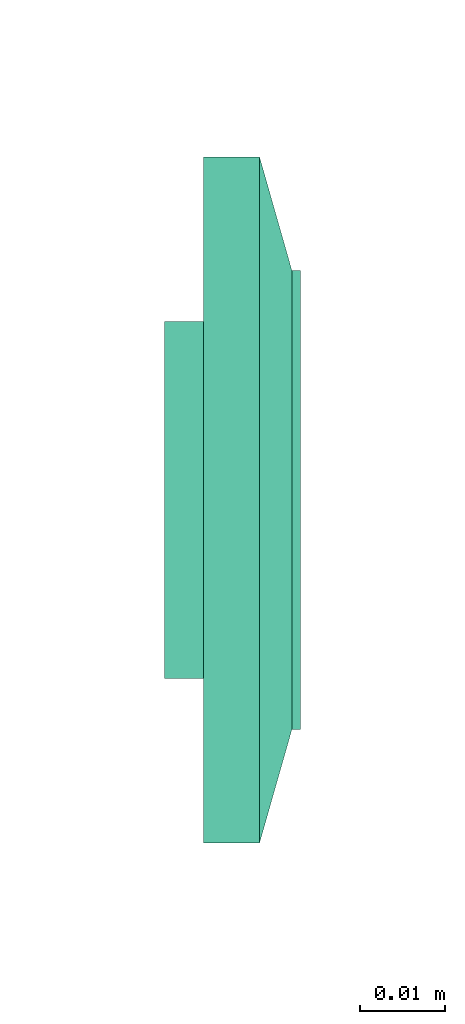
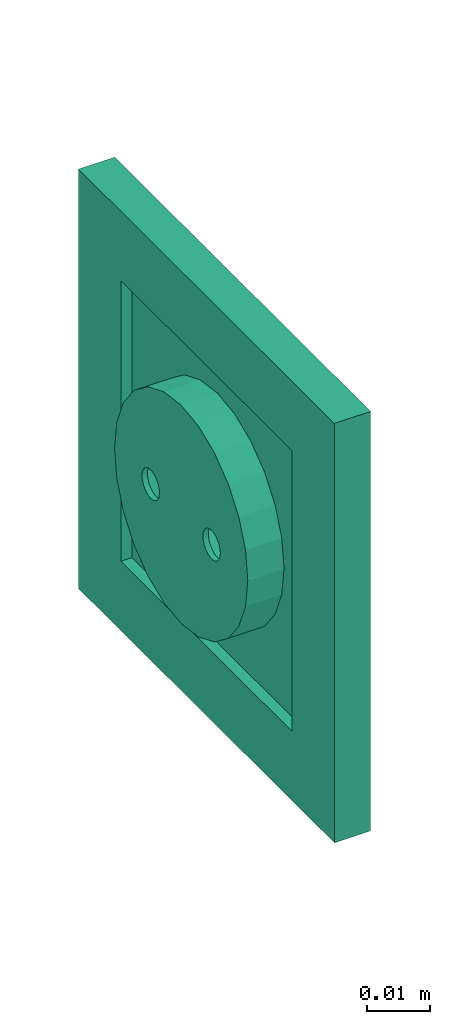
# One storey, part 130 of 153: 1 flow terminal.
"""IFC2X3 building model written with IfcOpenShell, lengths in metres."""

import ifcopenshell
import ifcopenshell.guid

model = None  # the IFC model being written
_history = None  # IfcOwnerHistory: only IFC2X3 demands one
_inside = {}  # id of a spatial element -> (the spatial element, [elements in it])
_under = {}  # id of a project, library or spatial element -> (it, [spatial elements below it])
_declared = {}  # id of a project -> (the project, [libraries it declares])
_typed = {}  # id of a type object -> (the type object, [elements of that type])
_made_of = {}  # id of a material, layer set ... -> (it, [elements and type objects made of it])


def new_model(schema):
    """Start an empty IFC model of exactly this schema.

    Asked for "IFC4X3", IfcOpenShell would pick the latest addendum, in which some entities
    have other attributes; the version numbers below select the first issue.
    IFC2X3 requires an IfcOwnerHistory on every rooted entity: one is made here for all.
    """
    global model, _history
    if schema == "IFC4X3":
        model = ifcopenshell.file(schema_version=(4, 3, 0, 0))
    else:
        model = ifcopenshell.file(schema=schema)
    _inside.clear()
    _under.clear()
    _declared.clear()
    _typed.clear()
    _made_of.clear()
    _history = None
    if model.schema == "IFC2X3":
        org = make("IfcOrganization", Name="unknown")
        user = make(
            "IfcPersonAndOrganization",
            ThePerson=make("IfcPerson", FamilyName="unknown"),
            TheOrganization=org,
        )
        app = make(
            "IfcApplication",
            ApplicationDeveloper=org,
            Version="unknown",
            ApplicationFullName="unknown",
            ApplicationIdentifier="unknown",
        )
        _history = make(
            "IfcOwnerHistory",
            OwningUser=user,
            OwningApplication=app,
            ChangeAction="ADDED",
            CreationDate=0,
        )
    return model


def make(cls, **values):
    """One entity of the class cls with the attributes given. An attribute that is None is left unset."""
    return model.create_entity(
        cls, **{name: value for name, value in values.items() if value is not None}
    )


def entity(cls, *values):
    """Any entity or typed value of the class cls, its attributes in the order of the schema. None: left unset."""
    e = model.create_entity(cls)
    for i, value in enumerate(values):
        if value is not None:
            e[i] = value
    return e


def rooted(cls, **values):
    """An entity with a GlobalId (a new one), such as an element, a storey or a relation."""
    return make(cls, GlobalId=ifcopenshell.guid.new(), OwnerHistory=_history, **values)


def si_unit(unit_type, name, prefix=None):
    """IfcSIUnit, for example si_unit("LENGTHUNIT", "METRE", prefix="MILLI")."""
    return make("IfcSIUnit", UnitType=unit_type, Prefix=prefix, Name=name)


def converted_unit(unit_type, name, factor, base, dimensions=None, offset=None):
    """IfcConversionBasedUnit, such as the inch: factor (a typed value) times the base unit."""
    return make(
        "IfcConversionBasedUnit"
        if offset is None
        else "IfcConversionBasedUnitWithOffset",
        ConversionOffset=offset,
        Dimensions=None
        if dimensions is None
        else entity("IfcDimensionalExponents", *dimensions),
        UnitType=unit_type,
        Name=name,
        ConversionFactor=make(
            "IfcMeasureWithUnit", ValueComponent=factor, UnitComponent=base
        ),
    )


def derived_unit(unit_type, elements):
    """IfcDerivedUnit: a product of units, each with its exponent."""
    return make(
        "IfcDerivedUnit",
        Elements=[
            make("IfcDerivedUnitElement", Unit=unit, Exponent=power)
            for unit, power in elements
        ],
        UnitType=unit_type,
    )


def assignment(units):
    """IfcUnitAssignment: the units of a project."""
    return None if units is None else make("IfcUnitAssignment", Units=units)


def point(xyz):
    """IfcCartesianPoint."""
    return None if xyz is None else make("IfcCartesianPoint", Coordinates=xyz)


def direction(xyz):
    """IfcDirection."""
    return None if xyz is None else make("IfcDirection", DirectionRatios=xyz)


def frame(location, z_axis=None, x_axis=None):
    """IfcAxis2Placement3D, a coordinate frame: its origin and axes. An axis left out is left unset."""
    return make(
        "IfcAxis2Placement3D",
        Location=point(location),
        Axis=direction(z_axis),
        RefDirection=direction(x_axis),
    )


def origin():
    """The frame at (0, 0, 0) with its axes left unset."""
    return frame((0.0, 0.0, 0.0))


def place(relative_to, where):
    """IfcLocalPlacement: puts the frame where relative to a parent placement (None: the world)."""
    return make(
        "IfcLocalPlacement", PlacementRelTo=relative_to, RelativePlacement=where
    )


def context(
    kind, dimensions, precision=None, world=None, true_north=None, identifier=None
):
    """IfcGeometricRepresentationContext, for example the 3D "Model" context."""
    return make(
        "IfcGeometricRepresentationContext",
        ContextIdentifier=identifier,
        ContextType=kind,
        CoordinateSpaceDimension=dimensions,
        Precision=precision,
        WorldCoordinateSystem=world,
        TrueNorth=true_north,
    )


def subcontext(parent, identifier, kind, view, scale=None):
    """IfcGeometricRepresentationSubContext, for example "Body" below "Model"."""
    return make(
        "IfcGeometricRepresentationSubContext",
        ContextIdentifier=identifier,
        ContextType=kind,
        ParentContext=parent,
        TargetScale=scale,
        TargetView=view,
    )


def project(units=None, contexts=None):
    """IfcProject with its units and contexts."""
    return rooted(
        "IfcProject",
        Name="project",
        RepresentationContexts=contexts,
        UnitsInContext=assignment(units),
    )


def spatial(cls, under=None, at=None, **own):
    """A site, building, storey or space (cls), placed at a placement, below another one or the project."""
    s = rooted(cls, ObjectPlacement=at, **own)
    if under is not None:
        _under.setdefault(under.id(), (under, []))[1].append(s)
    return s


def faces_of(points, faces, orient=None, outer=None):
    """IfcFace entities. A face is a list of loops; a loop is a list of indices into points, from 0.

    orient and outer hold one flag for each loop. By default every Orientation is true, the
    first loop of a face is its IfcFaceOuterBound and the others are IfcFaceBound.
    """
    made = []
    for i, loops in enumerate(faces):
        bounds = []
        for j, loop in enumerate(loops):
            is_outer = j == 0 if outer is None else outer[i][j]
            bounds.append(
                make(
                    "IfcFaceOuterBound" if is_outer else "IfcFaceBound",
                    Bound=make("IfcPolyLoop", Polygon=[points[k] for k in loop]),
                    Orientation=True if orient is None else orient[i][j],
                )
            )
        made.append(make("IfcFace", Bounds=bounds))
    return made


def face_set(faces, orient=None, outer=None):
    """The faces of one IfcConnectedFaceSet. surface_model builds it on its shared points."""
    return ("IfcConnectedFaceSet", faces, orient, outer)


def surface_model(cls, points, shells):
    """IfcFaceBasedSurfaceModel or IfcShellBasedSurfaceModel (cls): surfaces that need not close."""
    shared = [point(p) for p in points]
    made = [make(c, CfsFaces=faces_of(shared, fs, o, b)) for c, fs, o, b in shells]
    if cls == "IfcFaceBasedSurfaceModel":
        return make(cls, FbsmFaces=made)
    return make(cls, SbsmBoundary=made)


def shape(context_of_items, identifier, shape_type, items):
    """IfcShapeRepresentation: the items that make up one representation, for example the "Body"."""
    return make(
        "IfcShapeRepresentation",
        ContextOfItems=context_of_items,
        RepresentationIdentifier=identifier,
        RepresentationType=shape_type,
        Items=items,
    )


def source(mapping_origin, context_of_items, identifier, shape_type, items):
    """IfcRepresentationMap: a shape defined once, which mapped items show again and again."""
    return make(
        "IfcRepresentationMap",
        MappingOrigin=mapping_origin,
        MappedRepresentation=shape(context_of_items, identifier, shape_type, items),
    )


def transform(
    local_origin,
    x_axis=None,
    y_axis=None,
    z_axis=None,
    scale=None,
    scale2=None,
    scale3=None,
    uniform=True,
):
    """IfcCartesianTransformationOperator3D, or its non-uniform kind. x_axis, y_axis, z_axis: its Axis1, 2, 3."""
    if uniform:
        return make(
            "IfcCartesianTransformationOperator3D",
            Axis1=direction(x_axis),
            Axis2=direction(y_axis),
            LocalOrigin=point(local_origin),
            Scale=scale,
            Axis3=direction(z_axis),
        )
    return make(
        "IfcCartesianTransformationOperator3DnonUniform",
        Axis1=direction(x_axis),
        Axis2=direction(y_axis),
        LocalOrigin=point(local_origin),
        Scale=scale,
        Axis3=direction(z_axis),
        Scale2=scale2,
        Scale3=scale3,
    )


def mapped(mapping_source, mapping_target):
    """IfcMappedItem: shows the shape of a source again, moved by a transform."""
    return make(
        "IfcMappedItem", MappingSource=mapping_source, MappingTarget=mapping_target
    )


def made_of(thing, what):
    """Note that an element or type object is made of a material, layer set ...; save() writes the relation."""
    if what is not None:
        _made_of.setdefault(what.id(), (what, []))[1].append(thing)
    return thing


def type_object(cls, material=None, **own):
    """A type object (cls), such as IfcWallType, which elements share."""
    return made_of(rooted(cls, **own), material)


def type_shapes(of_type, sources):
    """Give a type object the sources (RepresentationMaps) that its elements show as mapped items."""
    of_type.RepresentationMaps = sources


def element(
    cls,
    number,
    at=None,
    inside=None,
    cuts=None,
    type_object=None,
    material=None,
    context=None,
    identifier="Body",
    shape_type=None,
    held_by="IfcProductDefinitionShape",
    body=None,
    shapes=None,
    **own,
):
    """One element of the class cls, such as IfcWall. Its Tag is "e" and its number.

    at: its placement. inside: the storey or other place that contains it. cuts: it is an
    opening in that element (IfcRelVoidsElement). A single representation is given by context,
    identifier, shape_type and body (its items); several are given by shapes. held_by: the class
    of the entity that holds the representations. save() writes the other relations.
    """
    e = rooted(cls, Tag="e%d" % number, ObjectPlacement=at, **own)
    if body is not None:
        shapes = [shape(context, identifier, shape_type, body)]
    if shapes is not None:
        e.Representation = make(held_by, Representations=shapes)
    if inside is not None:
        _inside.setdefault(inside.id(), (inside, []))[1].append(e)
    if cuts is not None:
        rooted(
            "IfcRelVoidsElement", RelatingBuildingElement=cuts, RelatedOpeningElement=e
        )
    if type_object is not None:
        _typed.setdefault(type_object.id(), (type_object, []))[1].append(e)
    return made_of(e, material)


def aggregate(whole, parts):
    """IfcRelAggregates: a whole, such as a stair, and the parts it consists of."""
    return rooted("IfcRelAggregates", RelatingObject=whole, RelatedObjects=parts)


def save(model, path):
    """Write the relations noted so far, then the file.

    IfcRelAggregates (storeys below a building ...), IfcRelContainedInSpatialStructure (elements
    in a storey), IfcRelDefinesByType, IfcRelAssociatesMaterial and IfcRelDeclares: one each for
    every whole, place, type object, material and project.
    """
    for whole, parts in _under.values():
        aggregate(whole, parts)
    for where, things in _inside.values():
        rooted(
            "IfcRelContainedInSpatialStructure",
            RelatedElements=things,
            RelatingStructure=where,
        )
    for kind, things in _typed.values():
        rooted("IfcRelDefinesByType", RelatedObjects=things, RelatingType=kind)
    for what, things in _made_of.values():
        rooted("IfcRelAssociatesMaterial", RelatedObjects=things, RelatingMaterial=what)
    for by, libraries in _declared.values():
        rooted("IfcRelDeclares", RelatingContext=by, RelatedDefinitions=libraries)
    model.write(path)


model = new_model("IFC2X3")

# Units and contexts
model_context = context("Model", 3, precision=1e-05, world=origin(), true_north=direction((6.12303176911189e-17, 1.0)))
body_context = subcontext(model_context, "Body", "Model", "MODEL_VIEW")
ifc_project = project(units=[si_unit("LENGTHUNIT", "METRE"), si_unit("AREAUNIT", "SQUARE_METRE"), si_unit("VOLUMEUNIT", "CUBIC_METRE"), converted_unit("PLANEANGLEUNIT", "DEGREE", entity("IfcRatioMeasure", 0.0174532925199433), si_unit("PLANEANGLEUNIT", "RADIAN"), dimensions=[0, 0, 0, 0, 0, 0, 0]), si_unit("MASSUNIT", "GRAM", prefix="KILO"), derived_unit("MASSDENSITYUNIT", [(si_unit("MASSUNIT", "GRAM", prefix="KILO"), 1), (si_unit("LENGTHUNIT", "METRE"), -3)]), si_unit("TIMEUNIT", "SECOND"), si_unit("FREQUENCYUNIT", "HERTZ"), si_unit("THERMODYNAMICTEMPERATUREUNIT", "DEGREE_CELSIUS"), derived_unit("THERMALTRANSMITTANCEUNIT", [(si_unit("MASSUNIT", "GRAM", prefix="KILO"), 1), (si_unit("THERMODYNAMICTEMPERATUREUNIT", "KELVIN"), -1), (si_unit("TIMEUNIT", "SECOND"), -3)]), derived_unit("VOLUMETRICFLOWRATEUNIT", [(si_unit("LENGTHUNIT", "METRE"), 3), (si_unit("TIMEUNIT", "SECOND"), -1)]), si_unit("ELECTRICCURRENTUNIT", "AMPERE"), si_unit("ELECTRICVOLTAGEUNIT", "VOLT"), si_unit("POWERUNIT", "WATT"), si_unit("FORCEUNIT", "NEWTON"), si_unit("ILLUMINANCEUNIT", "LUX"), si_unit("LUMINOUSFLUXUNIT", "LUMEN"), si_unit("LUMINOUSINTENSITYUNIT", "CANDELA"), derived_unit("USERDEFINED", [(si_unit("MASSUNIT", "GRAM", prefix="KILO"), -1), (si_unit("LENGTHUNIT", "METRE"), -2), (si_unit("TIMEUNIT", "SECOND"), 3), (si_unit("LUMINOUSFLUXUNIT", "LUMEN"), 1)]), derived_unit("LINEARVELOCITYUNIT", [(si_unit("LENGTHUNIT", "METRE"), 1), (si_unit("TIMEUNIT", "SECOND"), -1)]), si_unit("PRESSUREUNIT", "PASCAL"), derived_unit("USERDEFINED", [(si_unit("LENGTHUNIT", "METRE"), -2), (si_unit("MASSUNIT", "GRAM", prefix="KILO"), 1), (si_unit("TIMEUNIT", "SECOND"), -2)])], contexts=[model_context])

# Site, building, storey
site_placement = place(None, origin())
site = spatial("IfcSite", under=ifc_project, at=site_placement, Name="Default", CompositionType="ELEMENT")
building_placement = place(site_placement, origin())
building = spatial("IfcBuilding", under=site, at=building_placement, CompositionType="ELEMENT")
storey_placement = place(building_placement, frame((0.0, 0.0, -4.62)))
storey = spatial("IfcBuildingStorey", under=building, at=storey_placement, Name="S02", CompositionType="ELEMENT", Elevation=-4.62)

# Flow terminal
light_fixture_type = type_object("IfcLightFixtureType", Name="PC IP44", PredefinedType="NOTDEFINED")
shared_shape = source(origin(), body_context, "Body", "SurfaceModel", [
    surface_model("IfcFaceBasedSurfaceModel", [(-0.00225000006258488, 0.0127499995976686, 0.00949633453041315), (0.0, 0.0104999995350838, 0.00949633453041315), (0.0, 0.0115376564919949, 0.0101656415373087), (0.0, 0.0139623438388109, 0.0101656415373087), (0.0, 0.0144589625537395, 0.00984531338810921), (0.0, 0.0121178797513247, 0.0102778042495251), (0.0, 0.0133821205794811, 0.0102778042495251), (0.0, 0.0127499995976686, 0.010399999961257), (0.0, 0.0149999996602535, 0.00949633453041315), (0.00225000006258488, 0.0127499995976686, 0.00949633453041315), (0.0, 0.0110410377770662, 0.00984531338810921), (0.0, 0.0127499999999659, 0.00949633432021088), (0.00225000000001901, 0.0127499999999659, 0.00949633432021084), (0.00217333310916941, 0.0121676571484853, 0.00949633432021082), (0.00194855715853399, 0.0116249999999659, 0.00949633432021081), (0.00159099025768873, 0.0111590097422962, 0.00949633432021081), (0.001125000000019, 0.010801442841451, 0.00949633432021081), (0.00058234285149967, 0.0105766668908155, 0.00949633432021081), (0.0, 0.0104999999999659, 0.00949633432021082), (-0.000582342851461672, 0.0105766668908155, 0.00949633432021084), (-0.001124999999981, 0.010801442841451, 0.00949633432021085), (-0.00159099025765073, 0.0111590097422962, 0.00949633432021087), (-0.00194855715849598, 0.011624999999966, 0.00949633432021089), (-0.0021733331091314, 0.0121676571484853, 0.00949633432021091), (-0.00224999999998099, 0.012749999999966, 0.00949633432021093), (-0.00217333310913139, 0.0133323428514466, 0.00949633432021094), (-0.00194855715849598, 0.013874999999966, 0.00949633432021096), (-0.00159099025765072, 0.0143409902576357, 0.00949633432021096), (-0.00112499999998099, 0.0146985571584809, 0.00949633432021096), (-0.00058234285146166, 0.0149233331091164, 0.00949633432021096), (0.0, 0.0149999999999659, 0.00949633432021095), (0.000582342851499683, 0.0149233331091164, 0.00949633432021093), (0.00112500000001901, 0.0146985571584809, 0.00949633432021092), (0.00159099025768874, 0.0143409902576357, 0.00949633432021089), (0.001948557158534, 0.0138749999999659, 0.00949633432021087), (0.00217333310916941, 0.0133323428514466, 0.00949633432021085), (0.00225000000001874, 0.0127499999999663, -0.00360000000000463), (0.00217333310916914, 0.0121676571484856, -0.00360000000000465), (0.00194855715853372, 0.0116249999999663, -0.00360000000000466), (0.00159099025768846, 0.0111590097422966, -0.00360000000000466), (0.00112500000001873, 0.0108014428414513, -0.00360000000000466), (0.000582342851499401, 0.0105766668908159, -0.00360000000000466), (0.0, 0.0104999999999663, -0.00360000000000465), (-0.000582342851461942, 0.0105766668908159, -0.00360000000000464), (-0.00112499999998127, 0.0108014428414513, -0.00360000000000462), (-0.001590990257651, 0.0111590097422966, -0.0036000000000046), (-0.00194855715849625, 0.0116249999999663, -0.00360000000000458), (-0.00217333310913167, 0.0121676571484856, -0.00360000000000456), (-0.00224999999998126, 0.0127499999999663, -0.00360000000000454), (-0.00217333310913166, 0.013332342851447, -0.00360000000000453), (-0.00194855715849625, 0.0138749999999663, -0.00360000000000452), (-0.00159099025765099, 0.014340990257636, -0.00360000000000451), (-0.00112499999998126, 0.0146985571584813, -0.00360000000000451), (-0.000582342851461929, 0.0149233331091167, -0.00360000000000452), (0.0, 0.0149999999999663, -0.00360000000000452), (0.000582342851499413, 0.0149233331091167, -0.00360000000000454), (0.00112500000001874, 0.0146985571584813, -0.00360000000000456), (0.00159099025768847, 0.014340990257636, -0.00360000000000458), (0.00194855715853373, 0.0138749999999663, -0.0036000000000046), (0.00217333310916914, 0.013332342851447, -0.00360000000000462), (0.0270000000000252, 0.026999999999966, 0.0113999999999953), (-0.0269999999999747, 0.026999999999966, 0.0113999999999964), (-0.0269999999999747, -0.0270000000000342, 0.0113999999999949), (0.0270000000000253, -0.0270000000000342, 0.0113999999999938), (-0.0199999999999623, 0.0, 0.0113999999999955), (-0.0193185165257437, -0.00517638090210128, 0.0113999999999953), (-0.0173205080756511, -0.0100000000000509, 0.0113999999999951), (-0.0141421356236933, -0.0141421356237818, 0.011399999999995), (-0.00999999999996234, -0.0173205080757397, 0.0113999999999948), (-0.00517638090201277, -0.0193185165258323, 0.0113999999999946), (0.0, -0.0200000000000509, 0.0113999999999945), (0.00517638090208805, -0.0193185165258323, 0.0113999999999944), (0.0100000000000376, -0.0173205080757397, 0.0113999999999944), (0.0141421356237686, -0.0141421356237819, 0.0113999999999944), (0.0173205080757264, -0.010000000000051, 0.0113999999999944), (0.0193185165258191, -0.00517638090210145, 0.0113999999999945), (0.0200000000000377, 0.0, 0.0113999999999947), (0.0193185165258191, 0.00517638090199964, 0.0113999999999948), (0.0173205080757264, 0.0099999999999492, 0.011399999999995), (0.0141421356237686, 0.0141421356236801, 0.0113999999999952), (0.0100000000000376, 0.0173205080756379, 0.0113999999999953), (0.00517638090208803, 0.0193185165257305, 0.0113999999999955), (0.0, 0.0199999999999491, 0.0113999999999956), (-0.00517638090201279, 0.0193185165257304, 0.0113999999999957), (-0.00999999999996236, 0.0173205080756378, 0.0113999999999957), (-0.0141421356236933, 0.01414213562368, 0.0113999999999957), (-0.0173205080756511, 0.00999999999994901, 0.0113999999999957), (-0.0193185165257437, 0.00517638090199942, 0.0113999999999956), (0.0270000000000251, 0.0269999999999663, 0.00199999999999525), (0.0270000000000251, -0.0270000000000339, 0.00199999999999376), (-0.0269999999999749, -0.0270000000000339, 0.00199999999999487), (-0.0269999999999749, 0.0269999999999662, 0.00199999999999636), (0.0210000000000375, 0.0, 0.00199999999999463), (0.0202844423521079, -0.00543519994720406, 0.00199999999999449), (0.0181865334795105, -0.0105000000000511, 0.0019999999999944), (0.0148492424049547, -0.0148492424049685, 0.00199999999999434), (0.0105000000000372, -0.0181865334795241, 0.00199999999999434), (0.0054351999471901, -0.0202844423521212, 0.00199999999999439), (0.0, -0.0210000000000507, 0.00199999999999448), (-0.00543519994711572, -0.020284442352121, 0.00199999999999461), (-0.0104999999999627, -0.0181865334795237, 0.00199999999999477), (-0.0148492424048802, -0.014849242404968, 0.00199999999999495), (-0.0181865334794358, -0.0105000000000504, 0.00199999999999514), (-0.020284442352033, -0.00543519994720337, 0.00199999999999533), (-0.0209999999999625, 0.0, 0.00199999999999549), (-0.0202844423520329, 0.0054351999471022, 0.00199999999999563), (-0.0181865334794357, 0.0104999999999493, 0.00199999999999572), (-0.01484924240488, 0.0148492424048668, 0.00199999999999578), (-0.0104999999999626, 0.0181865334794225, 0.00199999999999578), (-0.00543519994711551, 0.0202844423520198, 0.00199999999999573), (0.0, 0.0209999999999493, 0.00199999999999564), (0.00543519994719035, 0.0202844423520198, 0.00199999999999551), (0.0105000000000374, 0.0181865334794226, 0.00199999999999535), (0.0148492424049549, 0.0148492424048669, 0.00199999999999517), (0.0181865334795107, 0.0104999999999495, 0.00199999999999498), (0.0202844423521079, 0.00543519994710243, 0.00199999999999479), (0.0200000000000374, 0.0, -0.00360000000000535), (0.0193185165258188, -0.00517638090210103, -0.00360000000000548), (0.0173205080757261, -0.0100000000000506, -0.00360000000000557), (0.0141421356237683, -0.0141421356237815, -0.00360000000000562), (0.0100000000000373, -0.0173205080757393, -0.00360000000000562), (0.00517638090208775, -0.0193185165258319, -0.00360000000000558), (0.0, -0.0200000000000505, -0.00360000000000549), (-0.00517638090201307, -0.0193185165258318, -0.00360000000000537), (-0.00999999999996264, -0.0173205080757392, -0.00360000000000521), (-0.0141421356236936, -0.0141421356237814, -0.00360000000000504), (-0.0173205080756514, -0.0100000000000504, -0.00360000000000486), (-0.019318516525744, -0.00517638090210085, -0.00360000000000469), (-0.0199999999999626, 0.0, -0.00360000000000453), (-0.0193185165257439, 0.00517638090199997, -0.0036000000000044), (-0.0173205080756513, 0.00999999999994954, -0.00360000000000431), (-0.0141421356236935, 0.0141421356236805, -0.00360000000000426), (-0.00999999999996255, 0.0173205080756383, -0.00360000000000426), (-0.00517638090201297, 0.0193185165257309, -0.0036000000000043), (0.0, 0.0199999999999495, -0.00360000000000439), (0.00517638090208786, 0.0193185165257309, -0.00360000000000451), (0.0100000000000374, 0.0173205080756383, -0.00360000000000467), (0.0141421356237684, 0.0141421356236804, -0.00360000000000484), (0.0173205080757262, 0.0099999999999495, -0.00360000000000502), (0.0193185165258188, 0.00517638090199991, -0.00360000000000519), (-0.0123499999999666, 0.0, -0.00360000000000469), (-0.0122562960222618, -0.000711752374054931, -0.00360000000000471), (-0.0119815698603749, -0.00137500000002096, -0.00360000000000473), (-0.0115445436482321, -0.00194454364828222, -0.00360000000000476), (-0.0109749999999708, -0.00238156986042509, -0.00360000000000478), (-0.0103117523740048, -0.00265629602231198, -0.0036000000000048), (-0.00959999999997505, -0.00275000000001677, -0.00360000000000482), (-0.0088882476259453, -0.00265629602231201, -0.00360000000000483), (-0.00822499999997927, -0.00238156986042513, -0.00360000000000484), (-0.00765545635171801, -0.00194454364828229, -0.00360000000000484), (-0.00721843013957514, -0.00137500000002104, -0.00360000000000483), (-0.00694370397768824, -0.000711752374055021, -0.00360000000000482), (-0.00684999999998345, 0.0, -0.0036000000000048), (-0.00694370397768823, 0.000711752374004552, -0.00360000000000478), (-0.00721843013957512, 0.00137499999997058, -0.00360000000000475), (-0.00765545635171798, 0.00194454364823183, -0.00360000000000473), (-0.00822499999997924, 0.00238156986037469, -0.0036000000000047), (-0.00888824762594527, 0.00265629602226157, -0.00360000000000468), (-0.00959999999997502, 0.00274999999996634, -0.00360000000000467), (-0.0103117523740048, 0.00265629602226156, -0.00360000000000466), (-0.0109749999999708, 0.00238156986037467, -0.00360000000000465), (-0.011544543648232, 0.00194454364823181, -0.00360000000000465), (-0.0119815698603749, 0.00137499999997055, -0.00360000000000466), (-0.0122562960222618, 0.000711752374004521, -0.00360000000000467), (0.00685000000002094, 0.0, -0.00360000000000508), (0.0069437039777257, -0.00071175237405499, -0.0036000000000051), (0.00721843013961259, -0.00137500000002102, -0.00360000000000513), (0.00765545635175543, -0.00194454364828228, -0.00360000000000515), (0.00822500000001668, -0.00238156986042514, -0.00360000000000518), (0.00888824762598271, -0.00265629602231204, -0.0036000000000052), (0.00960000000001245, -0.00275000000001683, -0.00360000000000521), (0.0103117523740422, -0.00265629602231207, -0.00360000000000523), (0.0109750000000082, -0.00238156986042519, -0.00360000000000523), (0.0115445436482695, -0.00194454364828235, -0.00360000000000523), (0.0119815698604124, -0.0013750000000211, -0.00360000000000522), (0.0122562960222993, -0.00071175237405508, -0.00360000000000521), (0.012350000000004, 0.0, -0.00360000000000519), (0.0122562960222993, 0.000711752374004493, -0.00360000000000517), (0.0119815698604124, 0.00137499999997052, -0.00360000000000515), (0.0115445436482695, 0.00194454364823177, -0.00360000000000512), (0.0109750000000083, 0.00238156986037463, -0.0036000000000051), (0.0103117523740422, 0.00265629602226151, -0.00360000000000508), (0.00960000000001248, 0.00274999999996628, -0.00360000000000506), (0.00888824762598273, 0.0026562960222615, -0.00360000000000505), (0.0082250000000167, 0.00238156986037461, -0.00360000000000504), (0.00765545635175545, 0.00194454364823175, -0.00360000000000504), (0.0072184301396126, 0.00137499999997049, -0.00360000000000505), (0.00694370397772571, 0.000711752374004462, -0.00360000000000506), (0.0210000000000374, 0.0, -0.00460000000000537), (0.0202844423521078, -0.00543519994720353, -0.00460000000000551), (0.0181865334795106, -0.0105000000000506, -0.0046000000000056), (0.0148492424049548, -0.0148492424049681, -0.00460000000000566), (0.0105000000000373, -0.0181865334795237, -0.00460000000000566), (0.00543519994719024, -0.0202844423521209, -0.00460000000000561), (0.0, -0.0210000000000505, -0.00460000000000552), (-0.00543519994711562, -0.0202844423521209, -0.00460000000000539), (-0.0104999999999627, -0.0181865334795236, -0.00460000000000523), (-0.0148492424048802, -0.0148492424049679, -0.00460000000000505), (-0.0181865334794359, -0.0105000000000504, -0.00460000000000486), (-0.0202844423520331, -0.00543519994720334, -0.00460000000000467), (-0.0209999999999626, 0.0, -0.00460000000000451), (-0.020284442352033, 0.00543519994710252, -0.00460000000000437), (-0.0181865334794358, 0.0104999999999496, -0.00460000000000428), (-0.0148492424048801, 0.0148492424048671, -0.00460000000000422), (-0.0104999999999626, 0.0181865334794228, -0.00460000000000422), (-0.00543519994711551, 0.02028444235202, -0.00460000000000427), (0.0, 0.0209999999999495, -0.00460000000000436), (0.00543519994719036, 0.02028444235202, -0.00460000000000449), (0.0105000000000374, 0.0181865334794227, -0.00460000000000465), (0.0148492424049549, 0.014849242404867, -0.00460000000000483), (0.0181865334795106, 0.0104999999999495, -0.00460000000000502), (0.0202844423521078, 0.00543519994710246, -0.00460000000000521), (-0.00684999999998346, 0.0, -0.0046000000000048), (-0.00694370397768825, 0.000711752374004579, -0.00460000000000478), (-0.00721843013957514, 0.00137499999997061, -0.00460000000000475), (-0.007655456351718, 0.00194454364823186, -0.00460000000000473), (-0.00822499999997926, 0.00238156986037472, -0.0046000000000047), (-0.00888824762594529, 0.0026562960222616, -0.00460000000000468), (-0.00959999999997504, 0.00274999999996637, -0.00460000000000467), (-0.0103117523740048, 0.00265629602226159, -0.00460000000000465), (-0.0109749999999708, 0.0023815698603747, -0.00460000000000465), (-0.0115445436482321, 0.00194454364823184, -0.00460000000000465), (-0.0119815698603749, 0.00137499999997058, -0.00460000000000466), (-0.0122562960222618, 0.000711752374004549, -0.00460000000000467), (-0.0123499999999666, 0.0, -0.00460000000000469), (-0.0122562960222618, -0.000711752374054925, -0.00460000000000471), (-0.0119815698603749, -0.00137500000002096, -0.00460000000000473), (-0.0115445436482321, -0.00194454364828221, -0.00460000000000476), (-0.0109749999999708, -0.00238156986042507, -0.00460000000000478), (-0.0103117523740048, -0.00265629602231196, -0.0046000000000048), (-0.00959999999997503, -0.00275000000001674, -0.00460000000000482), (-0.00888824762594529, -0.00265629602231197, -0.00460000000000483), (-0.00822499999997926, -0.00238156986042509, -0.00460000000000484), (-0.007655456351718, -0.00194454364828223, -0.00460000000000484), (-0.00721843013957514, -0.00137500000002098, -0.00460000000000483), (-0.00694370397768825, -0.000711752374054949, -0.00460000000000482), (0.012350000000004, 0.0, -0.00460000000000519), (0.0122562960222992, 0.000711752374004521, -0.00460000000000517), (0.0119815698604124, 0.00137499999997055, -0.00460000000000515), (0.0115445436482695, 0.0019445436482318, -0.00460000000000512), (0.0109750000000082, 0.00238156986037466, -0.0046000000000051), (0.0103117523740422, 0.00265629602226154, -0.00460000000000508), (0.00960000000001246, 0.00274999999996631, -0.00460000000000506), (0.00888824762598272, 0.00265629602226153, -0.00460000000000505), (0.00822500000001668, 0.00238156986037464, -0.00460000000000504), (0.00765545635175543, 0.00194454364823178, -0.00460000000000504), (0.00721843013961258, 0.00137499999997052, -0.00460000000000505), (0.00694370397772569, 0.00071175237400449, -0.00460000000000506), (0.00685000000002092, 0.0, -0.00460000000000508), (0.00694370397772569, -0.000711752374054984, -0.0046000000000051), (0.00721843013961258, -0.00137500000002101, -0.00460000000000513), (0.00765545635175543, -0.00194454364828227, -0.00460000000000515), (0.00822500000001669, -0.00238156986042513, -0.00460000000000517), (0.00888824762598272, -0.00265629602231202, -0.0046000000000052), (0.00960000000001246, -0.0027500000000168, -0.00460000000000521), (0.0103117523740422, -0.00265629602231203, -0.00460000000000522), (0.0109750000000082, -0.00238156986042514, -0.00460000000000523), (0.0115445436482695, -0.00194454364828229, -0.00460000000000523), (0.0119815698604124, -0.00137500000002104, -0.00460000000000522), (0.0122562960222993, -0.000711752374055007, -0.00460000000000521), (0.040350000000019, 0.0403499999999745, 0.00659999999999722), (0.040350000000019, -0.0403500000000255, 0.00659999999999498), (-0.0403499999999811, -0.0403500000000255, 0.00659999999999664), (-0.0403499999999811, 0.0403499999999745, 0.00659999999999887), (0.027000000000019, 0.0269999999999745, 0.00659999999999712), (-0.0269999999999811, 0.0269999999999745, 0.00659999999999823), (-0.026999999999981, -0.0270000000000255, 0.00659999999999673), (0.027000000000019, -0.0270000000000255, 0.00659999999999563), (0.027000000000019, 0.0269999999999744, 0.0103999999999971), (-0.026999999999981, 0.0269999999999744, 0.0103999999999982), (-0.026999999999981, -0.0270000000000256, 0.0103999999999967), (0.027000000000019, -0.0270000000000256, 0.0103999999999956), (0.040350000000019, 0.0403499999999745, 0.00659999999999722), (0.040350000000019, -0.0403500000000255, 0.00659999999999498), (-0.0403499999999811, -0.0403500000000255, 0.00659999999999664), (-0.0403499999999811, 0.0403499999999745, 0.00659999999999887), (-0.0269999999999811, 0.0269999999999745, 0.00659999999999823), (-0.0269999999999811, -0.0270000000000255, 0.00659999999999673), (0.0270000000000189, -0.0270000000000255, 0.00659999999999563), (0.0270000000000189, 0.0269999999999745, 0.00659999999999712), (0.0403500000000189, 0.0403499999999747, 0.0), (0.0403500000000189, -0.0403500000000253, 0.0), (-0.0403499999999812, -0.0403500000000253, 0.0), (-0.0403499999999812, 0.0403499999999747, 0.0), (0.0270000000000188, 0.0269999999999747, 0.0), (-0.0269999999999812, 0.0269999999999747, 0.0), (-0.0269999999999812, -0.0270000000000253, 0.0), (0.0270000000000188, -0.0270000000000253, 0.0)], [face_set([[[0, 1, 2]], [[3, 4, 2, 5]], [[6, 3, 5, 7]], [[2, 4, 0]], [[4, 8, 0]], [[3, 9, 8]], [[1, 9, 10]], [[2, 3, 6, 7]], [[3, 10, 9]], [[2, 10, 3]], [[11, 1, 0, 8]], [[11, 8, 9, 1]]]), face_set([[[12, 13, 14, 15, 16, 17, 18, 19, 20, 21, 22, 23, 24, 25, 26, 27, 28, 29, 30, 31, 32, 33, 34, 35]], [[36, 37, 38, 39, 40, 41, 42, 43, 44, 45, 46, 47, 48, 49, 50, 51, 52, 53, 54, 55, 56, 57, 58, 59]], [[48, 47, 23, 24]], [[47, 46, 22, 23]], [[45, 44, 20, 21]], [[46, 45, 21, 22]], [[44, 43, 19, 20]], [[18, 19, 43, 42]], [[42, 41, 17, 18]], [[41, 40, 16, 17]], [[39, 38, 14, 15]], [[40, 39, 15, 16]], [[38, 37, 13, 14]], [[12, 13, 37, 36]], [[36, 59, 35, 12]], [[59, 58, 34, 35]], [[57, 56, 32, 33]], [[58, 57, 33, 34]], [[56, 55, 31, 32]], [[30, 31, 55, 54]], [[54, 53, 29, 30]], [[53, 52, 28, 29]], [[51, 50, 26, 27]], [[52, 51, 27, 28]], [[50, 49, 25, 26]], [[24, 25, 49, 48]]]), face_set([[[60, 61, 62, 63], [64, 65, 66, 67, 68, 69, 70, 71, 72, 73, 74, 75, 76, 77, 78, 79, 80, 81, 82, 83, 84, 85, 86, 87]], [[88, 89, 90, 91], [92, 93, 94, 95, 96, 97, 98, 99, 100, 101, 102, 103, 104, 105, 106, 107, 108, 109, 110, 111, 112, 113, 114, 115]], [[61, 60, 88, 91]], [[62, 61, 91, 90]], [[63, 62, 90, 89]], [[60, 63, 89, 88]], [[116, 117, 118, 119, 120, 121, 122, 123, 124, 125, 126, 127, 128, 129, 130, 131, 132, 133, 134, 135, 136, 137, 138, 139], [140, 141, 142, 143, 144, 145, 146, 147, 148, 149, 150, 151, 152, 153, 154, 155, 156, 157, 158, 159, 160, 161, 162, 163], [164, 165, 166, 167, 168, 169, 170, 171, 172, 173, 174, 175, 176, 177, 178, 179, 180, 181, 182, 183, 184, 185, 186, 187]], [[64, 128, 127, 65]], [[65, 127, 126, 66]], [[67, 125, 124, 68]], [[66, 126, 125, 67]], [[68, 124, 123, 69]], [[122, 70, 69, 123]], [[70, 122, 121, 71]], [[71, 121, 120, 72]], [[73, 119, 118, 74]], [[72, 120, 119, 73]], [[74, 118, 117, 75]], [[116, 76, 75, 117]], [[76, 116, 139, 77]], [[77, 139, 138, 78]], [[79, 137, 136, 80]], [[78, 138, 137, 79]], [[80, 136, 135, 81]], [[134, 82, 81, 135]], [[82, 134, 133, 83]], [[83, 133, 132, 84]], [[84, 132, 131, 85]], [[85, 131, 130, 86]], [[130, 129, 87, 86]], [[64, 87, 129, 128]], [[188, 189, 190, 191, 192, 193, 194, 195, 196, 197, 198, 199, 200, 201, 202, 203, 204, 205, 206, 207, 208, 209, 210, 211], [212, 213, 214, 215, 216, 217, 218, 219, 220, 221, 222, 223, 224, 225, 226, 227, 228, 229, 230, 231, 232, 233, 234, 235], [236, 237, 238, 239, 240, 241, 242, 243, 244, 245, 246, 247, 248, 249, 250, 251, 252, 253, 254, 255, 256, 257, 258, 259]], [[200, 199, 103, 104]], [[199, 198, 102, 103]], [[197, 196, 100, 101]], [[198, 197, 101, 102]], [[196, 195, 99, 100]], [[98, 99, 195, 194]], [[194, 193, 97, 98]], [[193, 192, 96, 97]], [[191, 190, 94, 95]], [[192, 191, 95, 96]], [[190, 189, 93, 94]], [[92, 93, 189, 188]], [[188, 211, 115, 92]], [[211, 210, 114, 115]], [[209, 208, 112, 113]], [[210, 209, 113, 114]], [[208, 207, 111, 112]], [[110, 111, 207, 206]], [[206, 205, 109, 110]], [[205, 204, 108, 109]], [[203, 202, 106, 107]], [[204, 203, 107, 108]], [[202, 201, 105, 106]], [[104, 105, 201, 200]], [[141, 225, 226, 142]], [[140, 224, 225, 141]], [[144, 228, 229, 145]], [[143, 227, 228, 144]], [[142, 226, 227, 143]], [[230, 146, 145, 229]], [[149, 233, 232, 148]], [[148, 232, 231, 147]], [[152, 212, 235, 151]], [[151, 235, 234, 150]], [[150, 234, 233, 149]], [[146, 230, 231, 147]], [[154, 214, 213, 153]], [[153, 213, 212, 152]], [[157, 217, 216, 156]], [[156, 216, 215, 155]], [[155, 215, 214, 154]], [[218, 158, 157, 217]], [[160, 220, 221, 161]], [[159, 219, 220, 160]], [[163, 223, 224, 140]], [[162, 222, 223, 163]], [[161, 221, 222, 162]], [[158, 218, 219, 159]], [[166, 250, 249, 165]], [[165, 249, 248, 164]], [[169, 253, 252, 168]], [[168, 252, 251, 167]], [[167, 251, 250, 166]], [[254, 170, 169, 253]], [[172, 256, 257, 173]], [[171, 255, 256, 172]], [[175, 259, 236, 176]], [[174, 258, 259, 175]], [[173, 257, 258, 174]], [[170, 254, 255, 171]], [[177, 237, 238, 178]], [[176, 236, 237, 177]], [[180, 240, 241, 181]], [[179, 239, 240, 180]], [[178, 238, 239, 179]], [[242, 182, 181, 241]], [[185, 245, 244, 184]], [[184, 244, 243, 183]], [[164, 248, 247, 187]], [[187, 247, 246, 186]], [[186, 246, 245, 185]], [[182, 242, 243, 183]]]), face_set([[[260, 261, 262, 263], [264, 265, 266, 267]], [[260, 268, 269, 263]], [[263, 269, 270, 262]], [[262, 270, 271, 261]], [[261, 271, 268, 260]], [[264, 265, 269, 268]], [[265, 266, 270, 269]], [[266, 267, 271, 270]], [[268, 271, 267, 264]]]), face_set([[[272, 273, 274, 275], [276, 277, 278, 279]], [[280, 281, 282, 283], [284, 285, 286, 287]], [[275, 272, 280, 283]], [[274, 275, 283, 282]], [[273, 274, 282, 281]], [[272, 273, 281, 280]], [[284, 285, 276, 279]], [[285, 286, 277, 276]], [[286, 287, 278, 277]], [[279, 278, 287, 284]]])]),
])
type_shapes(light_fixture_type, [shared_shape])
flow_terminal_placement = place(storey_placement, frame((61.5897436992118, -189.290110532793, 0.130000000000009), z_axis=(1.0, 0.0, 0.0), x_axis=(0.0, 1.0, 0.0)))
element("IfcFlowTerminal", 1, at=flow_terminal_placement, inside=storey, type_object=light_fixture_type, Name="INT Prise de courant:PC IP44", ObjectType="INT Prise de courant:PC IP44", context=body_context, shape_type="MappedRepresentation", body=[
    mapped(shared_shape, transform((0.0, 0.0, 0.0), scale=1.0)),
])

save(model, "model.ifc")
